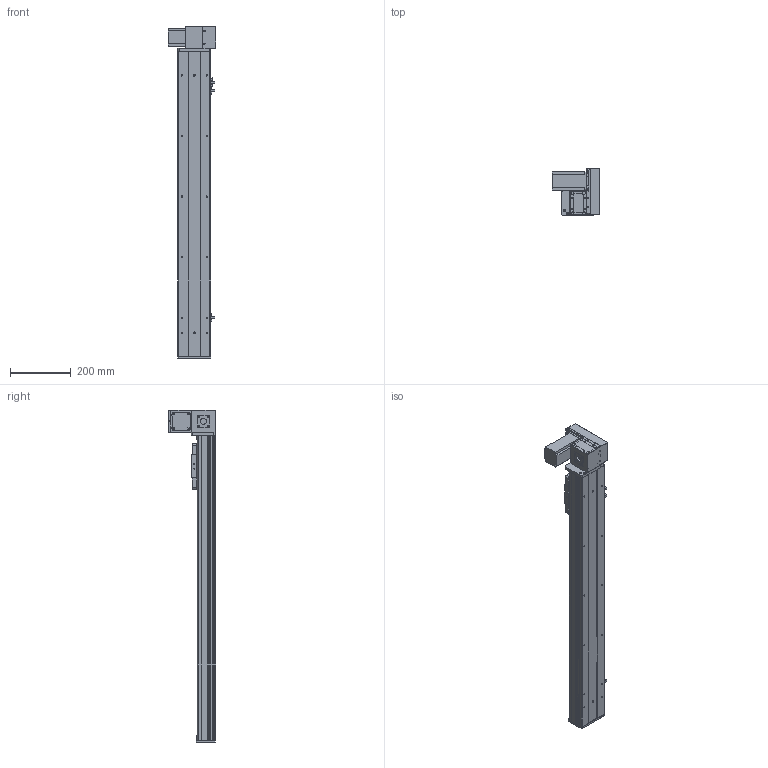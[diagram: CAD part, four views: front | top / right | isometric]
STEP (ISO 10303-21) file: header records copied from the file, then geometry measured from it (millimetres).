
FILE_DESCRIPTION (( 'STEP AP203' ), '1' );
FILE_NAME ('Y10CB-D90-S750-UR-P400W.STEP', '2020-02-16T03:26:46', ( '微软用户' ), ( '微软中国' ), 'SwSTEP 2.0', 'SolidWorks 2017', '' );
FILE_SCHEMA (( 'CONFIG_CONTROL_DESIGN' ));
Length unit declared in the file: millimetre
Products named in the file (18): 00B-俋欶BM--; Y10CB- 掛极耜裔啣-毀---; 0CB-雄赽釱---; Y10CB-D90-S750-UR-P400W; Y10C---詩湍揤啣; 0Cb-俋欶---; 10CB9-掛极; Y10B-々湍喘謫眊楊擘啣--; 10CB-耜裔; 0B-萇儂楊擘啣; Y135C-陔俋离換覜結え-; san松下电机400不带刹车----; Y100-135俋离換覜ん--; 0B-源倛裔啣; Y10B--々湍喘謫眊--666; 0B-埴倛裔啣; Y10B-耜蚾蟀諉啣----; 10CB-詩湍-
Assembly tree (21 placements, depth 2):
  Y10CB-D90-S750-UR-P400W
    0CB-雄赽釱---
    0Cb-俋欶---
    Y10B-々湍喘謫眊楊擘啣--
    0B-萇儂楊擘啣
    san松下电机400不带刹车----
    0B-源倛裔啣
    0B-埴倛裔啣
    10CB-詩湍-
    Y10CB- 掛极耜裔啣-毀---  x2
    Y10C---詩湍揤啣  x2
    10CB9-掛极
    10CB-耜裔
    Y135C-陔俋离換覜結え-
    Y100-135俋离換覜ん--  x3
    Y10B--々湍喘謫眊--666
    Y10B-耜蚾蟀諉啣----
    00B-俋欶BM--
Bounding box: 157 x 155.5 x 1096 mm (x, y, z)
Volume: 2699530 mm3; surface area: 1191537.7 mm2
Topology: 21 solids, 21 shells, 978 faces, 2603 edges, 1706 vertices
Faces by surface type: cylinder 479, plane 475, cone 24
Entity records: 30412 total; most frequent: CARTESIAN_POINT 5321, DIRECTION 4930, ORIENTED_EDGE 4676, EDGE_CURVE 2338, AXIS2_PLACEMENT_3D 1765, VERTEX_POINT 1532, VECTOR 1400, LINE 1400
